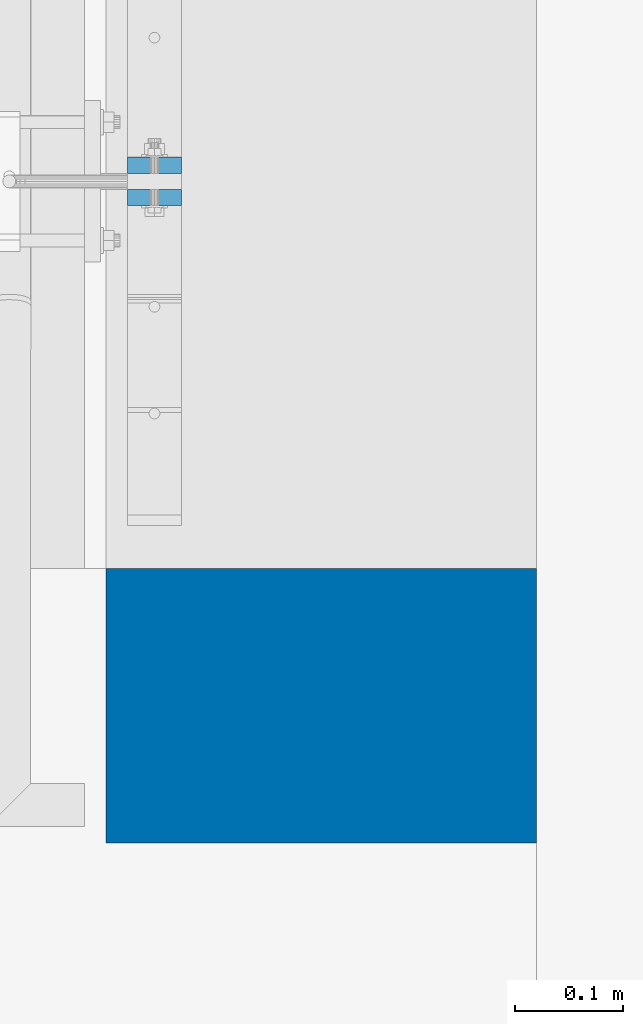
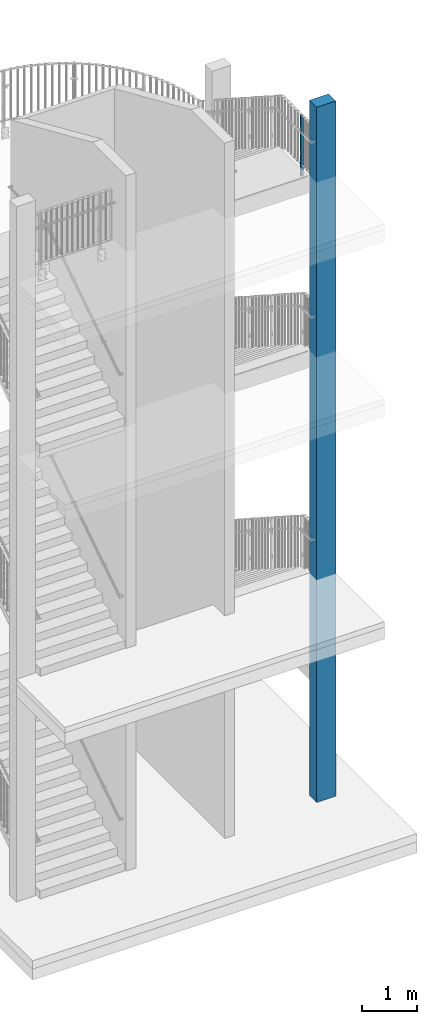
# One storey, part 23 of 296: 3 columns, 12 openings.
"""IFC2X3 building model written with IfcOpenShell, lengths in millimetres."""

from ifc_helpers import new_model, entity, si_unit, converted_unit, frame, frame_2d, origin, origin_with_axes, origin_2d, place, context, project, spatial, polyline, rectangle, circle, outline, extrude, material, element, save


model = new_model("IFC2X3")

# Units and contexts
model_context = context("Model", 3, precision=1e-09, world=origin_with_axes())
ifc_project = project(units=[si_unit("LENGTHUNIT", "METRE", prefix="MILLI"), si_unit("AREAUNIT", "SQUARE_METRE"), si_unit("VOLUMEUNIT", "CUBIC_METRE"), converted_unit("PLANEANGLEUNIT", "DEGREE", entity("IfcPlaneAngleMeasure", 0.01745329), si_unit("PLANEANGLEUNIT", "RADIAN"), dimensions=[0, 0, 0, 0, 0, 0, 0])], contexts=[model_context])

# Site, building, storey
site_placement = place(None, origin_with_axes())
site = spatial("IfcSite", under=ifc_project, at=site_placement, Name="TZD-S?d | Treppenhausgel?nder", CompositionType="ELEMENT")
building_placement = place(site_placement, origin_with_axes())
building = spatial("IfcBuilding", under=site, at=building_placement, Name="Struktur 1", CompositionType="ELEMENT")
storey_placement = place(building_placement, origin_with_axes())
storey = spatial("IfcBuildingStorey", under=building, at=storey_placement, Name="Default Storey", CompositionType="ELEMENT", Elevation=0.0)

# Column, openings
ifc_material_1 = material(Name="S235JR")
column_1_placement = place(None, frame((5894.999, -3400.0, 13405.001), z_axis=(0.0, 0.0, 1.0), x_axis=(0.0, -1.0, 0.0)))
column_1 = element("IfcColumn", 1, at=column_1_placement, inside=storey, material=ifc_material_1, Name="-", ObjectType="-", context=model_context, shape_type="SweptSolid", body=[
    extrude(rectangle(XDim=15.0, YDim=50.0, at=origin_2d()), origin(), (0.0, 0.0, 1.0), 1334.999),
])
opening_1_placement = place(column_1_placement, frame((-8.0, 5.001, 1064.999999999), z_axis=(-1.0, 0.0, 0.0), x_axis=(0.0, -1.0, 0.0)))
element("IfcOpeningElement", 2, at=opening_1_placement, cuts=column_1, ObjectType="Opening", context=model_context, shape_type="SweptSolid", body=[
    extrude(circle(Radius=5.001, at=frame_2d((5.001, 0.0), x_axis=(1.0, 0.0))), origin(), (0.0, 0.0, -1.0), 16.0),
])
opening_2_placement = place(column_1_placement, frame((-8.0, 5.001, 1014.999999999), z_axis=(-1.0, 0.0, 0.0), x_axis=(0.0, -1.0, 0.0)))
element("IfcOpeningElement", 3, at=opening_2_placement, cuts=column_1, ObjectType="Opening", context=model_context, shape_type="SweptSolid", body=[
    extrude(circle(Radius=5.001, at=frame_2d((5.001, 0.0), x_axis=(1.0, 0.0))), origin(), (0.0, 0.0, -1.0), 16.0),
])
opening_3_placement = place(column_1_placement, frame((-8.0, 5.001, 534.999999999), z_axis=(-1.0, 0.0, 0.0), x_axis=(0.0, -1.0, 0.0)))
element("IfcOpeningElement", 4, at=opening_3_placement, cuts=column_1, ObjectType="Opening", context=model_context, shape_type="SweptSolid", body=[
    extrude(circle(Radius=5.001, at=frame_2d((5.001, 0.0), x_axis=(1.0, 0.0))), origin(), (0.0, 0.0, -1.0), 16.0),
])
opening_4_placement = place(column_1_placement, frame((-8.0, 5.001, 484.999999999), z_axis=(-1.0, 0.0, 0.0), x_axis=(0.0, -1.0, 0.0)))
element("IfcOpeningElement", 5, at=opening_4_placement, cuts=column_1, ObjectType="Opening", context=model_context, shape_type="SweptSolid", body=[
    extrude(circle(Radius=5.001, at=frame_2d((5.001, 0.0), x_axis=(1.0, 0.0))), origin(), (0.0, 0.0, -1.0), 16.0),
])
opening_5_placement = place(column_1_placement, frame((-8.0, 7.001, 135.0), z_axis=(-1.0, 0.0, 0.0), x_axis=(0.0, -1.0, 0.0)))
element("IfcOpeningElement", 6, at=opening_5_placement, cuts=column_1, ObjectType="Opening", context=model_context, shape_type="SweptSolid", body=[
    extrude(circle(Radius=7.001, at=frame_2d((7.001, 0.0), x_axis=(1.0, 0.0))), origin(), (0.0, 0.0, -1.0), 16.0),
])
opening_6_placement = place(column_1_placement, frame((-8.0, 7.001, 35.0), z_axis=(-1.0, 0.0, 0.0), x_axis=(0.0, -1.0, 0.0)))
element("IfcOpeningElement", 7, at=opening_6_placement, cuts=column_1, ObjectType="Opening", context=model_context, shape_type="SweptSolid", body=[
    extrude(circle(Radius=7.001, at=frame_2d((7.001, 0.0), x_axis=(1.0, 0.0))), origin(), (0.0, 0.0, -1.0), 16.0),
])

column_2_placement = place(None, frame((5894.999, -3430.0, 13405.001), z_axis=(0.0, 0.0, -1.0), x_axis=(0.0, 1.0, 0.0)))
column_2 = element("IfcColumn", 8, at=column_2_placement, inside=storey, material=ifc_material_1, Name="-", ObjectType="-", context=model_context, shape_type="SweptSolid", body=[
    extrude(rectangle(XDim=15.0, YDim=50.0, at=origin_2d()), origin(), (0.0, 0.0, -1.0), 1334.999),
])
opening_7_placement = place(column_2_placement, frame((8.0, 7.001, -135.0), z_axis=(1.0, 0.0, 0.0), x_axis=(0.0, 1.0, 0.0)))
element("IfcOpeningElement", 9, at=opening_7_placement, cuts=column_2, ObjectType="Opening", context=model_context, shape_type="SweptSolid", body=[
    extrude(circle(Radius=7.001, at=frame_2d((-7.001, 0.0), x_axis=(1.0, 0.0))), origin(), (0.0, 0.0, -1.0), 16.0),
])
opening_8_placement = place(column_2_placement, frame((8.0, 7.001, -35.0), z_axis=(1.0, 0.0, 0.0), x_axis=(0.0, 1.0, 0.0)))
element("IfcOpeningElement", 10, at=opening_8_placement, cuts=column_2, ObjectType="Opening", context=model_context, shape_type="SweptSolid", body=[
    extrude(circle(Radius=7.001, at=frame_2d((-7.001, 0.0), x_axis=(1.0, 0.0))), origin(), (0.0, 0.0, -1.0), 16.0),
])
opening_9_placement = place(column_2_placement, frame((8.0, 5.001, -534.999999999), z_axis=(1.0, 0.0, 0.0), x_axis=(0.0, 1.0, 0.0)))
element("IfcOpeningElement", 11, at=opening_9_placement, cuts=column_2, ObjectType="Opening", context=model_context, shape_type="SweptSolid", body=[
    extrude(circle(Radius=5.001, at=frame_2d((-5.001, 0.0), x_axis=(1.0, 0.0))), origin(), (0.0, 0.0, -1.0), 16.0),
])
opening_10_placement = place(column_2_placement, frame((8.0, 5.001, -484.999999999), z_axis=(1.0, 0.0, 0.0), x_axis=(0.0, 1.0, 0.0)))
element("IfcOpeningElement", 12, at=opening_10_placement, cuts=column_2, ObjectType="Opening", context=model_context, shape_type="SweptSolid", body=[
    extrude(circle(Radius=5.001, at=frame_2d((-5.001, 0.0), x_axis=(1.0, 0.0))), origin(), (0.0, 0.0, -1.0), 16.0),
])
opening_11_placement = place(column_2_placement, frame((8.0, 5.001, -1064.999999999), z_axis=(1.0, 0.0, 0.0), x_axis=(0.0, 1.0, 0.0)))
element("IfcOpeningElement", 13, at=opening_11_placement, cuts=column_2, ObjectType="Opening", context=model_context, shape_type="SweptSolid", body=[
    extrude(circle(Radius=5.001, at=frame_2d((-5.001, 0.0), x_axis=(1.0, 0.0))), origin(), (0.0, 0.0, -1.0), 16.0),
])
opening_12_placement = place(column_2_placement, frame((8.0, 5.001, -1014.999999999), z_axis=(1.0, 0.0, 0.0), x_axis=(0.0, 1.0, 0.0)))
element("IfcOpeningElement", 14, at=opening_12_placement, cuts=column_2, ObjectType="Opening", context=model_context, shape_type="SweptSolid", body=[
    extrude(circle(Radius=5.001, at=frame_2d((-5.001, 0.0), x_axis=(1.0, 0.0))), origin(), (0.0, 0.0, -1.0), 16.0),
])

# Column
ifc_material_2 = material(Name="C20/25")
column_3_placement = place(None, frame((6050.0, -3902.5, 0.0), z_axis=(0.0, 0.0, -1.0), x_axis=(0.0, 1.0, 0.0)))
element("IfcColumn", 15, at=column_3_placement, inside=storey, material=ifc_material_2, Name="Column", ObjectType="Column", context=model_context, shape_type="SweptSolid", body=[
    extrude(outline(polyline([(127.5, -200.0), (127.5, 200.0), (-127.5, 200.0), (-127.5, -200.0), (127.5, -200.0)])), origin(), (0.0, 0.0, -1.0), 15300.0),
])

save(model, "model.ifc")
